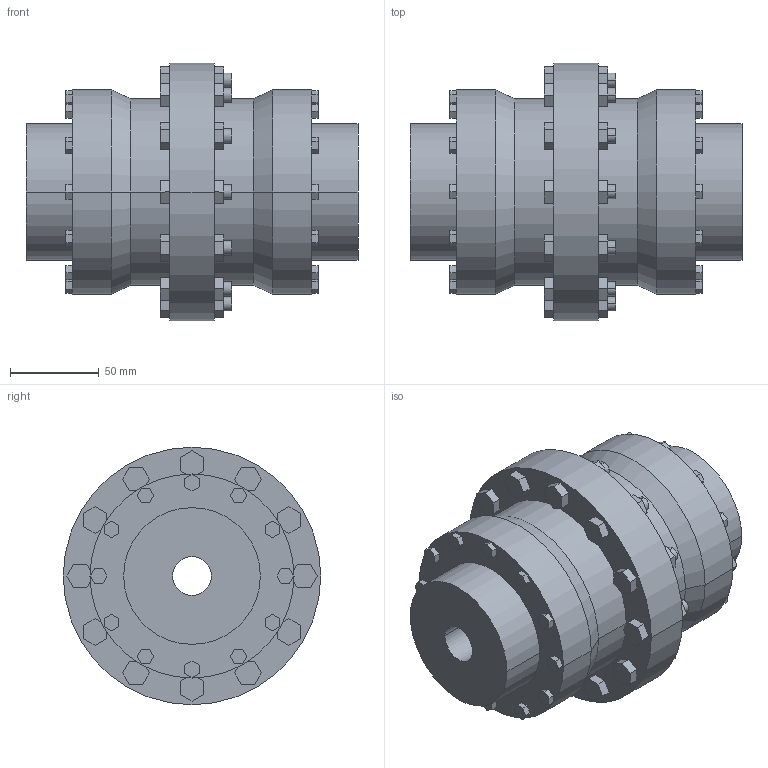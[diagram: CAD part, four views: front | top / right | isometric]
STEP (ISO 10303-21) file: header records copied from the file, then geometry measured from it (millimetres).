
FILE_DESCRIPTION((''),'2;1');
FILE_NAME('A19714900-0_ASM','2019-05-23T',('AB_Roschiwal'),('RENK AG'),'PRO/ENGINEER BY PARAMETRIC TECHNOLOGY CORPORATION, 2015440','PRO/ENGINEER BY PARAMETRIC TECHNOLOGY CORPORATION, 2015440','');
FILE_SCHEMA(('CONFIG_CONTROL_DESIGN'));
Length unit declared in the file: millimetre
Products named in the file (3): SBK48_GEHAEUSE; SBK48_NABE; A19714900-0_ASM
Assembly tree (3 placements, depth 2):
  A19714900-0_ASM
    SBK48_GEHAEUSE
    SBK48_NABE  x2
Bounding box: 187 x 145 x 145 mm (x, y, z)
Volume: 1246452.4 mm3; surface area: 201790.1 mm2
Topology: 3 solids, 3 shells, 422 faces, 1036 edges, 688 vertices
Faces by surface type: plane 362, cylinder 56, cone 4
Entity records: 12052 total; most frequent: CARTESIAN_POINT 2100, ORIENTED_EDGE 2024, DIRECTION 1940, EDGE_CURVE 1012, VECTOR 916, LINE 916, VERTEX_POINT 672, AXIS2_PLACEMENT_3D 512
